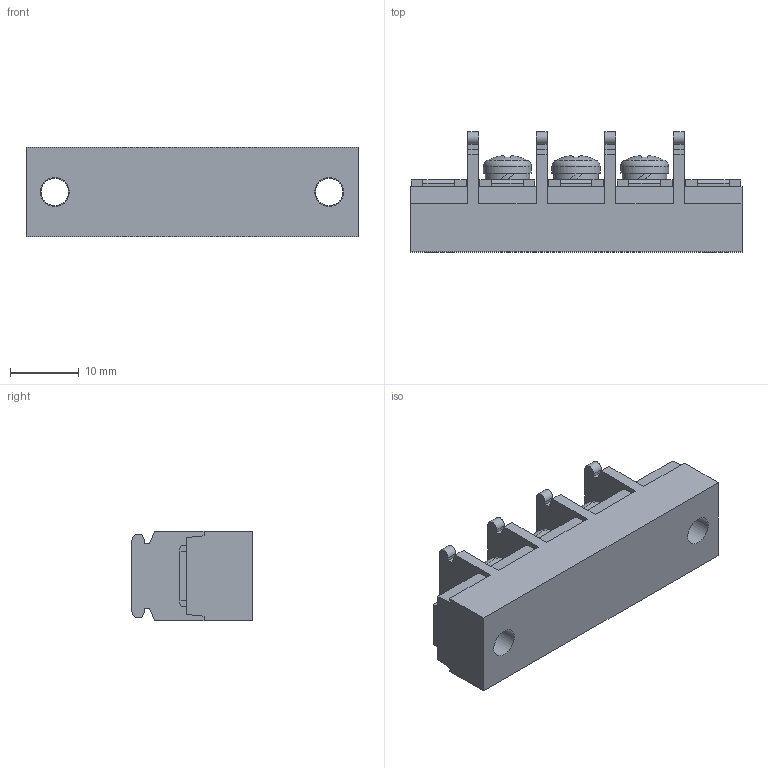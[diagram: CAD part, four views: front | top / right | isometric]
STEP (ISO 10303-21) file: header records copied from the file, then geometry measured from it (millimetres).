
FILE_DESCRIPTION(/* description */ ('Alibre Inc.'),/* implementation_level */ '2;1');
FILE_NAME(/* name */ 'export0',/* time_stamp */ '2015-10-17T18:38:10+09:00',/* author */ (''),/* organization */ (''),/* preprocessor_version */ 'ST-DEVELOPER v14',/* originating_system */ 'Alibre',/* authorisation */ '');
FILE_SCHEMA (('CONFIG_CONTROL_DESIGN'));
Length unit declared in the file: centimetre
Products named in the file (1): ID_1
Bounding box: 48.4 x 17.5 x 13 mm (x, y, z)
Volume: 6774.2 mm3; surface area: 4088.1 mm2
Topology: 1 solids, 17 shells, 614 faces, 1643 edges, 1093 vertices
Faces by surface type: plane 458, bspline 104, cylinder 31, cone 12, torus 6, sphere 3
Full cylindrical faces by diameter (mm): 4 x5, 4.2 x2, 6.5 x3, 7 x3
Entity records: 18536 total; most frequent: CARTESIAN_POINT 4334, ORIENTED_EDGE 3232, DIRECTION 2086, EDGE_CURVE 1616, VECTOR 1238, LINE 1238, VERTEX_POINT 1082, EDGE_LOOP 678
